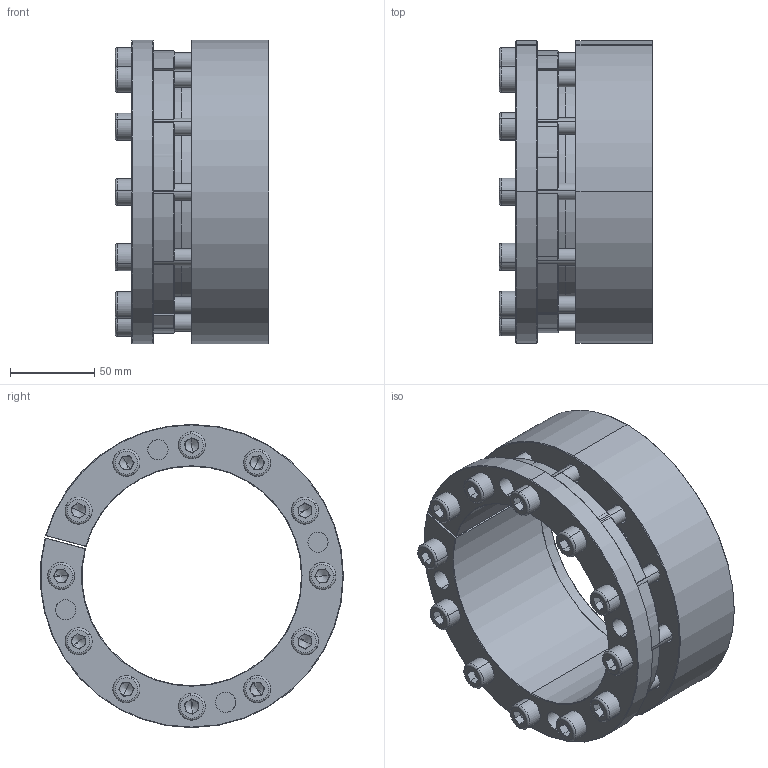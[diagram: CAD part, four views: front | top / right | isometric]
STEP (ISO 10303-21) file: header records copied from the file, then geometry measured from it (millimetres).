
FILE_DESCRIPTION (( 'STEP AP214' ), '1' );
FILE_NAME ('PL-H2 130-180.STEP', '2022-07-25T02:35:52', ( '' ), ( '' ), 'SwSTEP 2.0', 'SolidWorks 2022', '' );
FILE_SCHEMA (( 'AUTOMOTIVE_DESIGN' ));
Length unit declared in the file: millimetre
Products named in the file (1): PL-H2 130-180
Bounding box: 91.19 x 179.57 x 179.85 mm (x, y, z)
Volume: 776916.3 mm3; surface area: 179363.6 mm2
Topology: 1 solids, 1 shells, 435 faces, 1099 edges, 674 vertices
Faces by surface type: plane 188, cylinder 129, cone 94, torus 24
Entity records: 13098 total; most frequent: DIRECTION 2402, CARTESIAN_POINT 2357, ORIENTED_EDGE 2150, EDGE_CURVE 1075, AXIS2_PLACEMENT_3D 943, VERTEX_POINT 674, VECTOR 516, LINE 516
